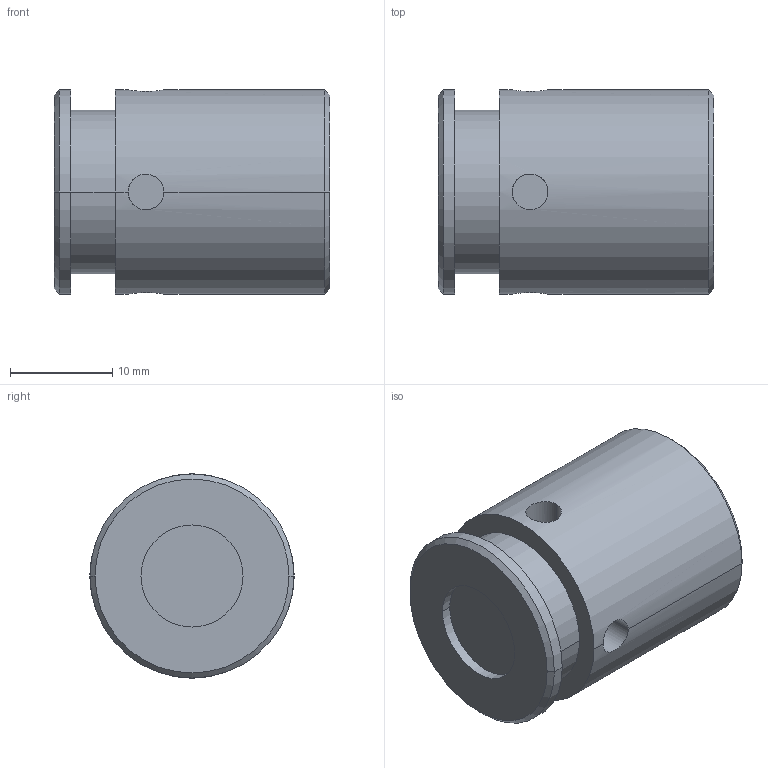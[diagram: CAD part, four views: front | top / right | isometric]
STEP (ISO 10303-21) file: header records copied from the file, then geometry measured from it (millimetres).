
FILE_DESCRIPTION((''),'2;1');
FILE_NAME('VJ3_06_240_03_271746','2021-06-02T',('l.soukupova'),(''),'PRO/ENGINEER BY PARAMETRIC TECHNOLOGY CORPORATION, 2015440','PRO/ENGINEER BY PARAMETRIC TECHNOLOGY CORPORATION, 2015440','');
FILE_SCHEMA(('AUTOMOTIVE_DESIGN { 1 0 10303 214 1 1 1 1 }'));
Length unit declared in the file: millimetre
Products named in the file (1): VJ3_06_240_03_271746
Bounding box: 27 x 20 x 20 mm (x, y, z)
Volume: 7391.9 mm3; surface area: 2794 mm2
Topology: 1 solids, 1 shells, 32 faces, 69 edges, 50 vertices
Faces by surface type: cylinder 18, plane 10, cone 4
Entity records: 1368 total; most frequent: CARTESIAN_POINT 376, DIRECTION 159, ORIENTED_EDGE 128, PRESENTATION_STYLE_ASSIGNMENT 71, STYLED_ITEM 71, CURVE_STYLE 70, AXIS2_PLACEMENT_3D 65, EDGE_CURVE 64
